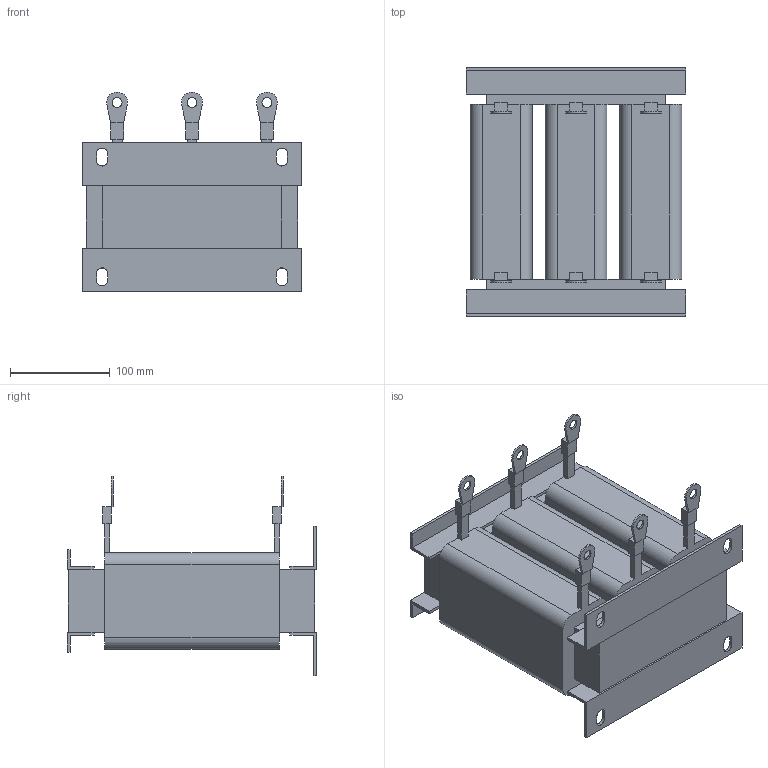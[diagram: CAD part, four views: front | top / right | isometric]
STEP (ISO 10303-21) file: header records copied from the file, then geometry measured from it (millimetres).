
FILE_DESCRIPTION(/* description */ (''),/* implementation_level */ '2;1');
FILE_NAME(/* name */ 'ACO-0028-T6-4.stp',/* time_stamp */ '2025-01-23T15:50:45+04:00',/* author */ ('Александр (огранич)'),/* organization */ (''),/* preprocessor_version */ 'ST-DEVELOPER v19.2',/* originating_system */ 'Autodesk Inventor 2024',/* authorisation */ '');
FILE_SCHEMA (('AUTOMOTIVE_DESIGN { 1 0 10303 214 3 1 1 }'));
Length unit declared in the file: millimetre
Products named in the file (1): ACO-0015-T4-4
Bounding box: 220 x 250 x 199.96 mm (x, y, z)
Volume: 4079288.4 mm3; surface area: 317262.9 mm2
Topology: 7 solids, 7 shells, 190 faces, 498 edges, 324 vertices
Faces by surface type: plane 158, cylinder 32
Full cylindrical faces by diameter (mm): 10 x6
Entity records: 5839 total; most frequent: CARTESIAN_POINT 1013, ORIENTED_EDGE 996, DIRECTION 944, EDGE_CURVE 498, LINE 434, VECTOR 434, VERTEX_POINT 324, AXIS2_PLACEMENT_3D 255
